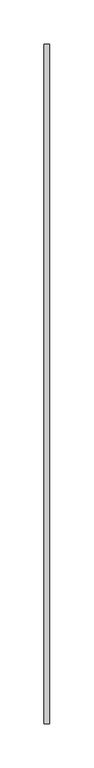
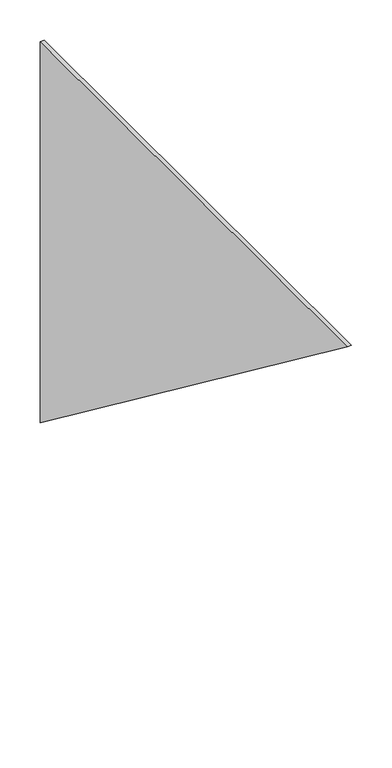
"""IFC4 building model written with IfcOpenShell, lengths in millimetres: beam geometry,  135356 :  135356."""

import ifcopenshell
import ifcopenshell.guid

model = None  # the IFC model being written
_history = None  # IfcOwnerHistory: only IFC2X3 demands one
_inside = {}  # id of a spatial element -> (the spatial element, [elements in it])
_under = {}  # id of a project, library or spatial element -> (it, [spatial elements below it])
_declared = {}  # id of a project -> (the project, [libraries it declares])
_typed = {}  # id of a type object -> (the type object, [elements of that type])
_made_of = {}  # id of a material, layer set ... -> (it, [elements and type objects made of it])


def new_model(schema):
    """Start an empty IFC model of exactly this schema.

    Asked for "IFC4X3", IfcOpenShell would pick the latest addendum, in which some entities
    have other attributes; the version numbers below select the first issue.
    IFC2X3 requires an IfcOwnerHistory on every rooted entity: one is made here for all.
    """
    global model, _history
    if schema == "IFC4X3":
        model = ifcopenshell.file(schema_version=(4, 3, 0, 0))
    else:
        model = ifcopenshell.file(schema=schema)
    _inside.clear()
    _under.clear()
    _declared.clear()
    _typed.clear()
    _made_of.clear()
    _history = None
    if model.schema == "IFC2X3":
        org = make("IfcOrganization", Name="unknown")
        user = make(
            "IfcPersonAndOrganization",
            ThePerson=make("IfcPerson", FamilyName="unknown"),
            TheOrganization=org,
        )
        app = make(
            "IfcApplication",
            ApplicationDeveloper=org,
            Version="unknown",
            ApplicationFullName="unknown",
            ApplicationIdentifier="unknown",
        )
        _history = make(
            "IfcOwnerHistory",
            OwningUser=user,
            OwningApplication=app,
            ChangeAction="ADDED",
            CreationDate=0,
        )
    return model


def make(cls, **values):
    """One entity of the class cls with the attributes given. An attribute that is None is left unset."""
    return model.create_entity(
        cls, **{name: value for name, value in values.items() if value is not None}
    )


def rooted(cls, **values):
    """An entity with a GlobalId (a new one), such as an element, a storey or a relation."""
    return make(cls, GlobalId=ifcopenshell.guid.new(), OwnerHistory=_history, **values)


def si_unit(unit_type, name, prefix=None):
    """IfcSIUnit, for example si_unit("LENGTHUNIT", "METRE", prefix="MILLI")."""
    return make("IfcSIUnit", UnitType=unit_type, Prefix=prefix, Name=name)


def assignment(units):
    """IfcUnitAssignment: the units of a project."""
    return None if units is None else make("IfcUnitAssignment", Units=units)


def point(xyz):
    """IfcCartesianPoint."""
    return None if xyz is None else make("IfcCartesianPoint", Coordinates=xyz)


def direction(xyz):
    """IfcDirection."""
    return None if xyz is None else make("IfcDirection", DirectionRatios=xyz)


def frame(location, z_axis=None, x_axis=None):
    """IfcAxis2Placement3D, a coordinate frame: its origin and axes. An axis left out is left unset."""
    return make(
        "IfcAxis2Placement3D",
        Location=point(location),
        Axis=direction(z_axis),
        RefDirection=direction(x_axis),
    )


def origin():
    """The frame at (0, 0, 0) with its axes left unset."""
    return frame((0.0, 0.0, 0.0))


def place(relative_to, where):
    """IfcLocalPlacement: puts the frame where relative to a parent placement (None: the world)."""
    return make(
        "IfcLocalPlacement", PlacementRelTo=relative_to, RelativePlacement=where
    )


def context(
    kind, dimensions, precision=None, world=None, true_north=None, identifier=None
):
    """IfcGeometricRepresentationContext, for example the 3D "Model" context."""
    return make(
        "IfcGeometricRepresentationContext",
        ContextIdentifier=identifier,
        ContextType=kind,
        CoordinateSpaceDimension=dimensions,
        Precision=precision,
        WorldCoordinateSystem=world,
        TrueNorth=true_north,
    )


def project(units=None, contexts=None):
    """IfcProject with its units and contexts."""
    return rooted(
        "IfcProject",
        Name="project",
        RepresentationContexts=contexts,
        UnitsInContext=assignment(units),
    )


def spatial(cls, under=None, at=None, **own):
    """A site, building, storey or space (cls), placed at a placement, below another one or the project."""
    s = rooted(cls, ObjectPlacement=at, **own)
    if under is not None:
        _under.setdefault(under.id(), (under, []))[1].append(s)
    return s


def polyline(points):
    """IfcPolyline through the points."""
    return make("IfcPolyline", Points=[point(p) for p in points])


def outline(outer, holes=None, kind="AREA"):
    """IfcArbitraryClosedProfileDef: a profile drawn as a closed curve; with holes, ...WithVoids."""
    if holes is None:
        return make("IfcArbitraryClosedProfileDef", ProfileType=kind, OuterCurve=outer)
    return make(
        "IfcArbitraryProfileDefWithVoids",
        ProfileType=kind,
        OuterCurve=outer,
        InnerCurves=holes,
    )


def extrude(swept, where, along, depth):
    """IfcExtrudedAreaSolid: the profile swept, set in the frame where, extruded along a direction by depth."""
    return make(
        "IfcExtrudedAreaSolid",
        SweptArea=swept,
        Position=where,
        ExtrudedDirection=direction(along),
        Depth=depth,
    )


def shape(context_of_items, identifier, shape_type, items):
    """IfcShapeRepresentation: the items that make up one representation, for example the "Body"."""
    return make(
        "IfcShapeRepresentation",
        ContextOfItems=context_of_items,
        RepresentationIdentifier=identifier,
        RepresentationType=shape_type,
        Items=items,
    )


def source(mapping_origin, context_of_items, identifier, shape_type, items):
    """IfcRepresentationMap: a shape defined once, which mapped items show again and again."""
    return make(
        "IfcRepresentationMap",
        MappingOrigin=mapping_origin,
        MappedRepresentation=shape(context_of_items, identifier, shape_type, items),
    )


def transform(
    local_origin,
    x_axis=None,
    y_axis=None,
    z_axis=None,
    scale=None,
    scale2=None,
    scale3=None,
    uniform=True,
):
    """IfcCartesianTransformationOperator3D, or its non-uniform kind. x_axis, y_axis, z_axis: its Axis1, 2, 3."""
    if uniform:
        return make(
            "IfcCartesianTransformationOperator3D",
            Axis1=direction(x_axis),
            Axis2=direction(y_axis),
            LocalOrigin=point(local_origin),
            Scale=scale,
            Axis3=direction(z_axis),
        )
    return make(
        "IfcCartesianTransformationOperator3DnonUniform",
        Axis1=direction(x_axis),
        Axis2=direction(y_axis),
        LocalOrigin=point(local_origin),
        Scale=scale,
        Axis3=direction(z_axis),
        Scale2=scale2,
        Scale3=scale3,
    )


def mapped(mapping_source, mapping_target):
    """IfcMappedItem: shows the shape of a source again, moved by a transform."""
    return make(
        "IfcMappedItem", MappingSource=mapping_source, MappingTarget=mapping_target
    )


def made_of(thing, what):
    """Note that an element or type object is made of a material, layer set ...; save() writes the relation."""
    if what is not None:
        _made_of.setdefault(what.id(), (what, []))[1].append(thing)
    return thing


def element(
    cls,
    number,
    at=None,
    inside=None,
    cuts=None,
    type_object=None,
    material=None,
    context=None,
    identifier="Body",
    shape_type=None,
    held_by="IfcProductDefinitionShape",
    body=None,
    shapes=None,
    **own,
):
    """One element of the class cls, such as IfcWall. Its Tag is "e" and its number.

    at: its placement. inside: the storey or other place that contains it. cuts: it is an
    opening in that element (IfcRelVoidsElement). A single representation is given by context,
    identifier, shape_type and body (its items); several are given by shapes. held_by: the class
    of the entity that holds the representations. save() writes the other relations.
    """
    e = rooted(cls, Tag="e%d" % number, ObjectPlacement=at, **own)
    if body is not None:
        shapes = [shape(context, identifier, shape_type, body)]
    if shapes is not None:
        e.Representation = make(held_by, Representations=shapes)
    if inside is not None:
        _inside.setdefault(inside.id(), (inside, []))[1].append(e)
    if cuts is not None:
        rooted(
            "IfcRelVoidsElement", RelatingBuildingElement=cuts, RelatedOpeningElement=e
        )
    if type_object is not None:
        _typed.setdefault(type_object.id(), (type_object, []))[1].append(e)
    return made_of(e, material)


def aggregate(whole, parts):
    """IfcRelAggregates: a whole, such as a stair, and the parts it consists of."""
    return rooted("IfcRelAggregates", RelatingObject=whole, RelatedObjects=parts)


def save(model, path):
    """Write the relations noted so far, then the file.

    IfcRelAggregates (storeys below a building ...), IfcRelContainedInSpatialStructure (elements
    in a storey), IfcRelDefinesByType, IfcRelAssociatesMaterial and IfcRelDeclares: one each for
    every whole, place, type object, material and project.
    """
    for whole, parts in _under.values():
        aggregate(whole, parts)
    for where, things in _inside.values():
        rooted(
            "IfcRelContainedInSpatialStructure",
            RelatedElements=things,
            RelatingStructure=where,
        )
    for kind, things in _typed.values():
        rooted("IfcRelDefinesByType", RelatedObjects=things, RelatingType=kind)
    for what, things in _made_of.values():
        rooted("IfcRelAssociatesMaterial", RelatedObjects=things, RelatingMaterial=what)
    for by, libraries in _declared.values():
        rooted("IfcRelDeclares", RelatingContext=by, RelatedDefinitions=libraries)
    model.write(path)


def beam_33f13721(model_context):
    return source(origin(), model_context, "Body", "SweptSolid", [
        extrude(outline(polyline([(-30384.336575, 7430.14), (-29619.0, 7430.14), (-29619.0, 6850.3937869), (-30384.336575, 7430.14)])), frame((5.9999999, 0.0, 0.0), z_axis=(1.0, 0.0, 0.0), x_axis=(0.0, 1.0, 0.0)), (0.0, 0.0, 1.0), 6.0),
    ])


if __name__ == "__main__":
    model = new_model("IFC4")
    model_context = context("Model", 3, world=origin())
    ifc_project = project(units=[si_unit("LENGTHUNIT", "METRE", prefix="MILLI")], contexts=[model_context])
    site = spatial("IfcSite", under=ifc_project)
    building = spatial("IfcBuilding", under=site)
    placement = place(None, origin())
    beam_shape = beam_33f13721(model_context)
    element("IfcBeam", 1, ObjectType=" 135356 :  135356", at=placement, inside=building, context=model_context, shape_type="MappedRepresentation", body=[
        mapped(beam_shape, transform((0.0, 0.0, 0.0), x_axis=(1.0, 0.0, 0.0), y_axis=(0.0, 1.0, 0.0), z_axis=(0.0, 0.0, 1.0))),
    ])
    save(model, "model.ifc")
